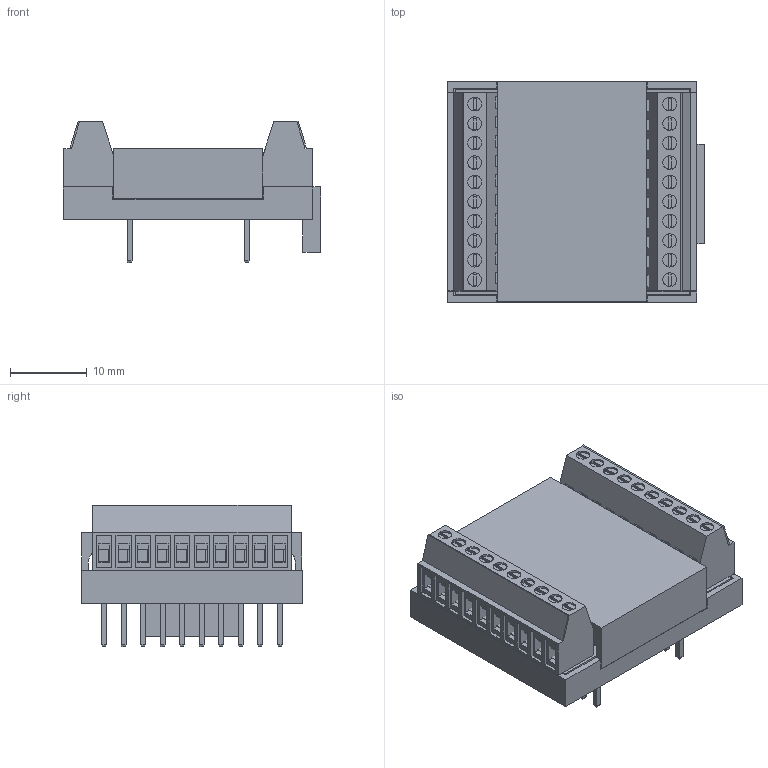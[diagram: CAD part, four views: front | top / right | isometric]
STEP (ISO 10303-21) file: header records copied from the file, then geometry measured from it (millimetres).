
FILE_DESCRIPTION (( 'STEP AP214' ), '1' );
FILE_NAME ('astorino_IOAdapter_3.3.STEP', '2024-05-02T08:25:36', ( '' ), ( '' ), 'SwSTEP 2.0', 'SolidWorks 2021', '' );
FILE_SCHEMA (( 'AUTOMOTIVE_DESIGN' ));
Length unit declared in the file: millimetre
Products named in the file (1): astorino_IOAdapter_3.3
Bounding box: 33.47 x 28.66 x 18.43 mm (x, y, z)
Surface area: 7820.2 mm2 (no closed solid volume)
Topology: 0 solids, 79 shells, 703 faces, 2219 edges, 1628 vertices
Faces by surface type: plane 645, cylinder 46, cone 12
Entity records: 31817 total; most frequent: CARTESIAN_POINT 4669, DIRECTION 3849, ORIENTED_EDGE 3434, EDGE_CURVE 2219, LINE 1945, VECTOR 1945, VERTEX_POINT 1628, AXIS2_PLACEMENT_3D 952
